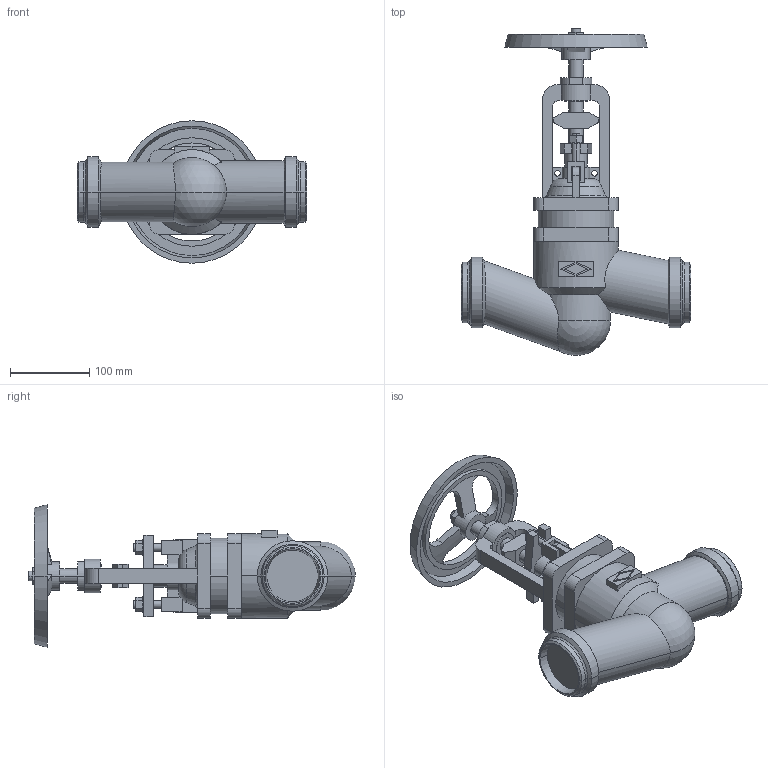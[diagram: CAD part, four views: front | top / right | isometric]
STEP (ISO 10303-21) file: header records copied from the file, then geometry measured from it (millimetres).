
FILE_DESCRIPTION(('OneSpaceDesigner STEP Export'),'2;1');
FILE_NAME('c000004331.stp','2010-05-06T10:57:15',(''),(''),'OneSpace Designer STEP processor for AP214 (Solid Model)','OneSpace Modeling 15.50B 03-Nov-2007 (C) CoCreate Software GmbH','');
FILE_SCHEMA(('AUTOMOTIVE_DESIGN { 1 0 10303 214 1 1 1 1 }'));
Length unit declared in the file: millimetre
Products named in the file (1): 1
Bounding box: 290 x 412.89 x 180 mm (x, y, z)
Volume: 2959423.3 mm3; surface area: 262365.7 mm2
Topology: 1 solids, 1 shells, 286 faces, 747 edges, 482 vertices
Faces by surface type: plane 145, cylinder 87, cone 36, torus 16, sphere 2
Entity records: 11560 total; most frequent: CARTESIAN_POINT 2595, ORIENTED_EDGE 1490, DIRECTION 1231, EDGE_CURVE 745, VERTEX_POINT 482, VECTOR 413, LINE 413, AXIS2_PLACEMENT_3D 409
